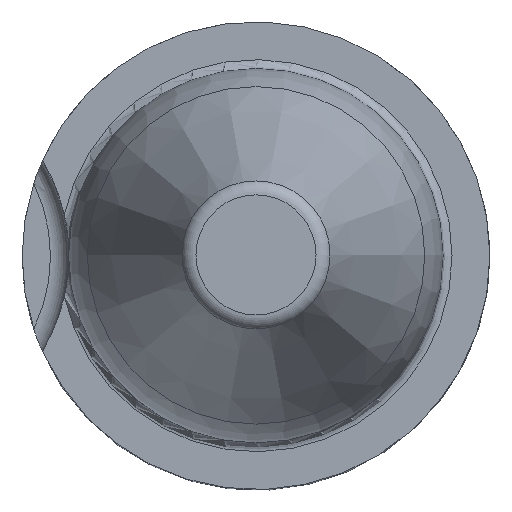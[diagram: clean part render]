
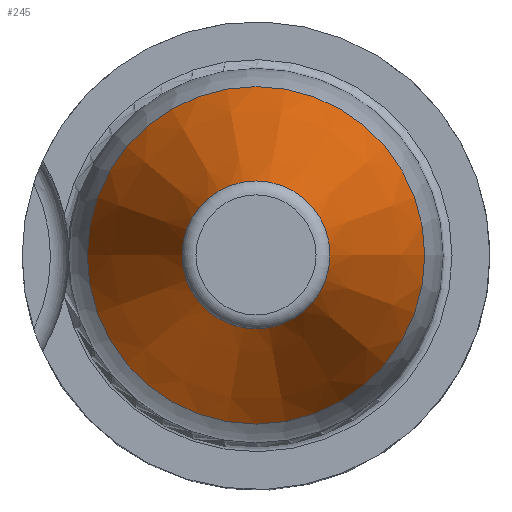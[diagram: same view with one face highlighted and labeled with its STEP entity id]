
A CAD part, top view. The second image highlights one B-rep face of the part: STEP entity #245.
In plain terms, the highlighted conical face has half-angle 20 degrees and reference radius 7.216 mm.
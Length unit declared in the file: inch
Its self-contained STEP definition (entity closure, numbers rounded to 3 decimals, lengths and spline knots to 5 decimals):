
#6 = ORIENTED_EDGE ( 'NONE', *, *, #320, .T. ) ;
#12 = AXIS2_PLACEMENT_3D ( 'NONE', #154, #195, #78 ) ;
#21 = EDGE_CURVE ( 'NONE', #271, #271, #213, .T. ) ;
#43 = ORIENTED_EDGE ( 'NONE', *, *, #21, .F. ) ;
#63 = EDGE_LOOP ( 'NONE', ( #6 ) ) ;
#78 = DIRECTION ( 'NONE',  ( 1., 0., 0. ) ) ;
#154 = CARTESIAN_POINT ( 'NONE',  ( 0., 0., 0.30011 ) ) ;
#195 = DIRECTION ( 'NONE',  ( 0., 0., 1. ) ) ;
#198 = CARTESIAN_POINT ( 'NONE',  ( 0., 0., 0.73847 ) ) ;
#203 = CARTESIAN_POINT ( 'NONE',  ( 0.28408, 0., 0.30011 ) ) ;
#213 = CIRCLE ( 'NONE', #379, 0.12453 ) ;
#226 = CIRCLE ( 'NONE', #12, 0.28408 ) ;
#231 = DIRECTION ( 'NONE',  ( 0., 0., 1. ) ) ;
#245 = ADVANCED_FACE ( 'NONE', ( #313, #429 ), #393, .T. ) ;
#253 = EDGE_LOOP ( 'NONE', ( #43 ) ) ;
#271 = VERTEX_POINT ( 'NONE', #304 ) ;
#304 = CARTESIAN_POINT ( 'NONE',  ( 0.12453, 0., 0.73847 ) ) ;
#313 = FACE_BOUND ( 'NONE', #253, .T. ) ;
#320 = EDGE_CURVE ( 'NONE', #412, #412, #226, .T. ) ;
#368 = DIRECTION ( 'NONE',  ( 1., 0., 0. ) ) ;
#379 = AXIS2_PLACEMENT_3D ( 'NONE', #198, #231, #368 ) ;
#386 = CARTESIAN_POINT ( 'NONE',  ( 0., 0., 0.30011 ) ) ;
#393 = CONICAL_SURFACE ( 'NONE', #410, 0.28408, 0.349 ) ;
#410 = AXIS2_PLACEMENT_3D ( 'NONE', #386, #428, #465 ) ;
#412 = VERTEX_POINT ( 'NONE', #203 ) ;
#428 = DIRECTION ( 'NONE',  ( 0., 0., -1. ) ) ;
#429 = FACE_OUTER_BOUND ( 'NONE', #63, .T. ) ;
#465 = DIRECTION ( 'NONE',  ( -1., 0., 0. ) ) ;
